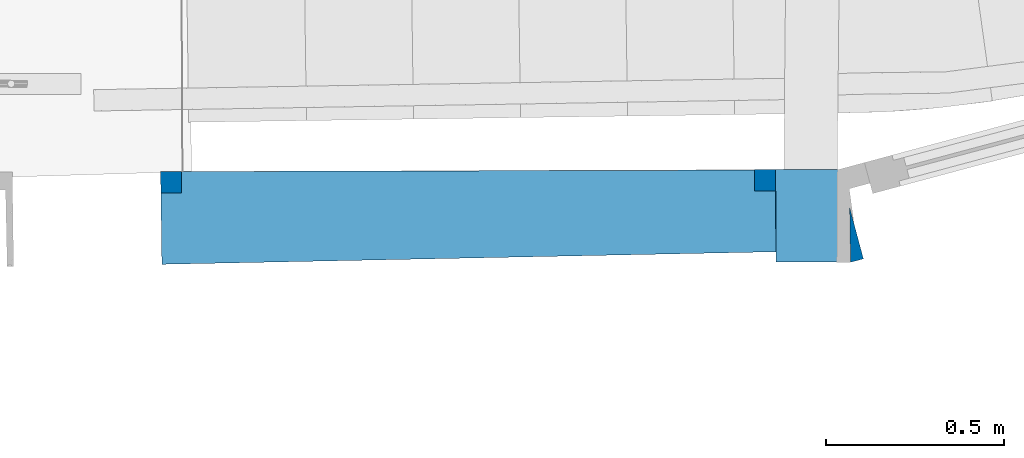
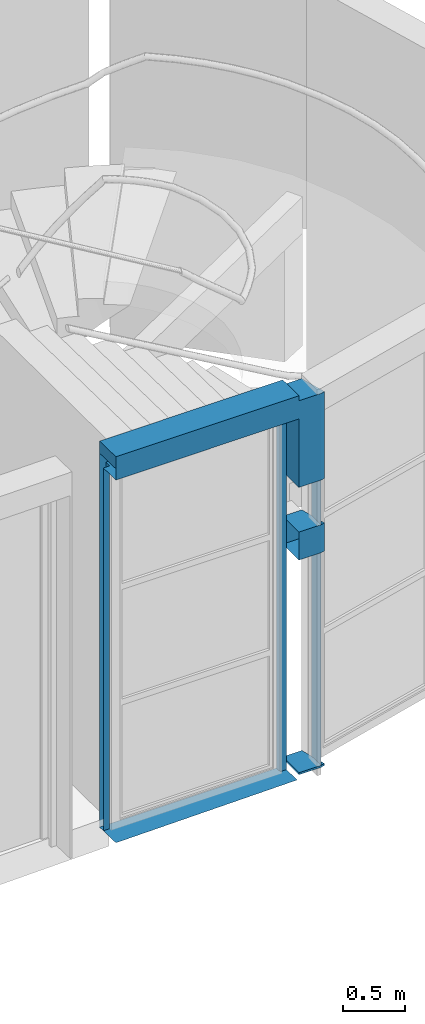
# One storey, part 40 of 66: 1 wall, 1 opening.
"""IFC2X3 building model written with IfcOpenShell, lengths in centimetres."""

import ifcopenshell
import ifcopenshell.guid

model = None  # the IFC model being written
_history = None  # IfcOwnerHistory: only IFC2X3 demands one
_inside = {}  # id of a spatial element -> (the spatial element, [elements in it])
_under = {}  # id of a project, library or spatial element -> (it, [spatial elements below it])
_declared = {}  # id of a project -> (the project, [libraries it declares])
_typed = {}  # id of a type object -> (the type object, [elements of that type])
_made_of = {}  # id of a material, layer set ... -> (it, [elements and type objects made of it])


def new_model(schema):
    """Start an empty IFC model of exactly this schema.

    Asked for "IFC4X3", IfcOpenShell would pick the latest addendum, in which some entities
    have other attributes; the version numbers below select the first issue.
    IFC2X3 requires an IfcOwnerHistory on every rooted entity: one is made here for all.
    """
    global model, _history
    if schema == "IFC4X3":
        model = ifcopenshell.file(schema_version=(4, 3, 0, 0))
    else:
        model = ifcopenshell.file(schema=schema)
    _inside.clear()
    _under.clear()
    _declared.clear()
    _typed.clear()
    _made_of.clear()
    _history = None
    if model.schema == "IFC2X3":
        org = make("IfcOrganization", Name="unknown")
        user = make(
            "IfcPersonAndOrganization",
            ThePerson=make("IfcPerson", FamilyName="unknown"),
            TheOrganization=org,
        )
        app = make(
            "IfcApplication",
            ApplicationDeveloper=org,
            Version="unknown",
            ApplicationFullName="unknown",
            ApplicationIdentifier="unknown",
        )
        _history = make(
            "IfcOwnerHistory",
            OwningUser=user,
            OwningApplication=app,
            ChangeAction="ADDED",
            CreationDate=0,
        )
    return model


def make(cls, **values):
    """One entity of the class cls with the attributes given. An attribute that is None is left unset."""
    return model.create_entity(
        cls, **{name: value for name, value in values.items() if value is not None}
    )


def entity(cls, *values):
    """Any entity or typed value of the class cls, its attributes in the order of the schema. None: left unset."""
    e = model.create_entity(cls)
    for i, value in enumerate(values):
        if value is not None:
            e[i] = value
    return e


def rooted(cls, **values):
    """An entity with a GlobalId (a new one), such as an element, a storey or a relation."""
    return make(cls, GlobalId=ifcopenshell.guid.new(), OwnerHistory=_history, **values)


def si_unit(unit_type, name, prefix=None):
    """IfcSIUnit, for example si_unit("LENGTHUNIT", "METRE", prefix="MILLI")."""
    return make("IfcSIUnit", UnitType=unit_type, Prefix=prefix, Name=name)


def converted_unit(unit_type, name, factor, base, dimensions=None, offset=None):
    """IfcConversionBasedUnit, such as the inch: factor (a typed value) times the base unit."""
    return make(
        "IfcConversionBasedUnit"
        if offset is None
        else "IfcConversionBasedUnitWithOffset",
        ConversionOffset=offset,
        Dimensions=None
        if dimensions is None
        else entity("IfcDimensionalExponents", *dimensions),
        UnitType=unit_type,
        Name=name,
        ConversionFactor=make(
            "IfcMeasureWithUnit", ValueComponent=factor, UnitComponent=base
        ),
    )


def assignment(units):
    """IfcUnitAssignment: the units of a project."""
    return None if units is None else make("IfcUnitAssignment", Units=units)


def point(xyz):
    """IfcCartesianPoint."""
    return None if xyz is None else make("IfcCartesianPoint", Coordinates=xyz)


def direction(xyz):
    """IfcDirection."""
    return None if xyz is None else make("IfcDirection", DirectionRatios=xyz)


def frame(location, z_axis=None, x_axis=None):
    """IfcAxis2Placement3D, a coordinate frame: its origin and axes. An axis left out is left unset."""
    return make(
        "IfcAxis2Placement3D",
        Location=point(location),
        Axis=direction(z_axis),
        RefDirection=direction(x_axis),
    )


def origin():
    """The frame at (0, 0, 0) with its axes left unset."""
    return frame((0.0, 0.0, 0.0))


def origin_with_axes():
    """The frame at (0, 0, 0) with the z axis (0, 0, 1) and the x axis (1, 0, 0) written out."""
    return frame((0.0, 0.0, 0.0), z_axis=(0.0, 0.0, 1.0), x_axis=(1.0, 0.0, 0.0))


def place(relative_to, where):
    """IfcLocalPlacement: puts the frame where relative to a parent placement (None: the world)."""
    return make(
        "IfcLocalPlacement", PlacementRelTo=relative_to, RelativePlacement=where
    )


def context(
    kind, dimensions, precision=None, world=None, true_north=None, identifier=None
):
    """IfcGeometricRepresentationContext, for example the 3D "Model" context."""
    return make(
        "IfcGeometricRepresentationContext",
        ContextIdentifier=identifier,
        ContextType=kind,
        CoordinateSpaceDimension=dimensions,
        Precision=precision,
        WorldCoordinateSystem=world,
        TrueNorth=true_north,
    )


def subcontext(parent, identifier, kind, view, scale=None):
    """IfcGeometricRepresentationSubContext, for example "Body" below "Model"."""
    return make(
        "IfcGeometricRepresentationSubContext",
        ContextIdentifier=identifier,
        ContextType=kind,
        ParentContext=parent,
        TargetScale=scale,
        TargetView=view,
    )


def project(units=None, contexts=None):
    """IfcProject with its units and contexts."""
    return rooted(
        "IfcProject",
        Name="project",
        RepresentationContexts=contexts,
        UnitsInContext=assignment(units),
    )


def spatial(cls, under=None, at=None, **own):
    """A site, building, storey or space (cls), placed at a placement, below another one or the project."""
    s = rooted(cls, ObjectPlacement=at, **own)
    if under is not None:
        _under.setdefault(under.id(), (under, []))[1].append(s)
    return s


def faces_of(points, faces, orient=None, outer=None):
    """IfcFace entities. A face is a list of loops; a loop is a list of indices into points, from 0.

    orient and outer hold one flag for each loop. By default every Orientation is true, the
    first loop of a face is its IfcFaceOuterBound and the others are IfcFaceBound.
    """
    made = []
    for i, loops in enumerate(faces):
        bounds = []
        for j, loop in enumerate(loops):
            is_outer = j == 0 if outer is None else outer[i][j]
            bounds.append(
                make(
                    "IfcFaceOuterBound" if is_outer else "IfcFaceBound",
                    Bound=make("IfcPolyLoop", Polygon=[points[k] for k in loop]),
                    Orientation=True if orient is None else orient[i][j],
                )
            )
        made.append(make("IfcFace", Bounds=bounds))
    return made


def faceted_brep(points, faces, orient=None, outer=None, voids=None):
    """IfcFacetedBrep: a solid bounded by flat faces; with voids (closed shells), ...WithVoids."""
    shared = [point(p) for p in points]
    hull = make("IfcClosedShell", CfsFaces=faces_of(shared, faces, orient, outer))
    if voids is None:
        return make("IfcFacetedBrep", Outer=hull)
    return make(
        "IfcFacetedBrepWithVoids",
        Outer=hull,
        Voids=[
            make(cls, CfsFaces=faces_of(shared, fs, o, b)) for cls, fs, o, b in voids
        ],
    )


def shape(context_of_items, identifier, shape_type, items):
    """IfcShapeRepresentation: the items that make up one representation, for example the "Body"."""
    return make(
        "IfcShapeRepresentation",
        ContextOfItems=context_of_items,
        RepresentationIdentifier=identifier,
        RepresentationType=shape_type,
        Items=items,
    )


def material(Name=None, Category=None):
    """IfcMaterial."""
    return make("IfcMaterial", Name=Name, Category=Category)


def layer(
    of_material, thickness, ventilated=None, Name=None, Category=None, Priority=None
):
    """IfcMaterialLayer: one layer of a wall or slab, of a material (None: an air gap)."""
    return make(
        "IfcMaterialLayer",
        Material=of_material,
        LayerThickness=thickness,
        IsVentilated=ventilated,
        Name=Name,
        Category=Category,
        Priority=Priority,
    )


def layer_set(layers, Name=None):
    """IfcMaterialLayerSet."""
    return make("IfcMaterialLayerSet", MaterialLayers=layers, LayerSetName=Name)


def layer_usage(for_layer_set, set_direction, sense, offset, extent=None):
    """IfcMaterialLayerSetUsage: how a layer set lies in its element."""
    return make(
        "IfcMaterialLayerSetUsage",
        ForLayerSet=for_layer_set,
        LayerSetDirection=set_direction,
        DirectionSense=sense,
        OffsetFromReferenceLine=offset,
        ReferenceExtent=extent,
    )


def made_of(thing, what):
    """Note that an element or type object is made of a material, layer set ...; save() writes the relation."""
    if what is not None:
        _made_of.setdefault(what.id(), (what, []))[1].append(thing)
    return thing


def type_object(cls, material=None, **own):
    """A type object (cls), such as IfcWallType, which elements share."""
    return made_of(rooted(cls, **own), material)


def element(
    cls,
    number,
    at=None,
    inside=None,
    cuts=None,
    type_object=None,
    material=None,
    context=None,
    identifier="Body",
    shape_type=None,
    held_by="IfcProductDefinitionShape",
    body=None,
    shapes=None,
    **own,
):
    """One element of the class cls, such as IfcWall. Its Tag is "e" and its number.

    at: its placement. inside: the storey or other place that contains it. cuts: it is an
    opening in that element (IfcRelVoidsElement). A single representation is given by context,
    identifier, shape_type and body (its items); several are given by shapes. held_by: the class
    of the entity that holds the representations. save() writes the other relations.
    """
    e = rooted(cls, Tag="e%d" % number, ObjectPlacement=at, **own)
    if body is not None:
        shapes = [shape(context, identifier, shape_type, body)]
    if shapes is not None:
        e.Representation = make(held_by, Representations=shapes)
    if inside is not None:
        _inside.setdefault(inside.id(), (inside, []))[1].append(e)
    if cuts is not None:
        rooted(
            "IfcRelVoidsElement", RelatingBuildingElement=cuts, RelatedOpeningElement=e
        )
    if type_object is not None:
        _typed.setdefault(type_object.id(), (type_object, []))[1].append(e)
    return made_of(e, material)


def aggregate(whole, parts):
    """IfcRelAggregates: a whole, such as a stair, and the parts it consists of."""
    return rooted("IfcRelAggregates", RelatingObject=whole, RelatedObjects=parts)


def save(model, path):
    """Write the relations noted so far, then the file.

    IfcRelAggregates (storeys below a building ...), IfcRelContainedInSpatialStructure (elements
    in a storey), IfcRelDefinesByType, IfcRelAssociatesMaterial and IfcRelDeclares: one each for
    every whole, place, type object, material and project.
    """
    for whole, parts in _under.values():
        aggregate(whole, parts)
    for where, things in _inside.values():
        rooted(
            "IfcRelContainedInSpatialStructure",
            RelatedElements=things,
            RelatingStructure=where,
        )
    for kind, things in _typed.values():
        rooted("IfcRelDefinesByType", RelatedObjects=things, RelatingType=kind)
    for what, things in _made_of.values():
        rooted("IfcRelAssociatesMaterial", RelatedObjects=things, RelatingMaterial=what)
    for by, libraries in _declared.values():
        rooted("IfcRelDeclares", RelatingContext=by, RelatedDefinitions=libraries)
    model.write(path)


model = new_model("IFC2X3")

# Units and contexts
model_context = context("Model", 3, precision=0.0001, world=origin(), true_north=direction((0.225632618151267, 0.974212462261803, 0.0)))
body_context = subcontext(model_context, "Body", "Model", "MODEL_VIEW")
footprint_context = subcontext(model_context, "FootPrint", "Model", "MODEL_VIEW")
profile_context = subcontext(model_context, "Profile", "Model", "MODEL_VIEW")
ifc_project = project(units=[si_unit("LENGTHUNIT", "METRE", prefix="CENTI"), si_unit("AREAUNIT", "SQUARE_METRE", prefix="CENTI"), si_unit("VOLUMEUNIT", "CUBIC_METRE", prefix="CENTI"), converted_unit("PLANEANGLEUNIT", "DEGREE", entity("IfcRatioMeasure", 0.0174532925), si_unit("PLANEANGLEUNIT", "RADIAN"), dimensions=[0, 0, 0, 0, 0, 0, 0])], contexts=[model_context])

# Site, building, storey
site_placement = place(None, origin_with_axes())
site = spatial("IfcSite", under=ifc_project, at=site_placement, Name="Default Site", CompositionType="ELEMENT")
building_placement = place(site_placement, origin_with_axes())
building = spatial("IfcBuilding", under=site, at=building_placement, Name="Default Building", CompositionType="ELEMENT")
storey_placement = place(building_placement, frame((0.0, 0.0, 477.795358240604), z_axis=(0.0, 0.0, 1.0), x_axis=(1.0, 0.0, 0.0)))
storey = spatial("IfcBuildingStorey", under=building, at=storey_placement, Name="Niveau 1", CompositionType="ELEMENT", Elevation=477.795358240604)

# Wall, opening
ifc_material = material(Name="<aucun>")
ifc_layer = layer(ifc_material, 26.0)
ifc_layer_set = layer_set([ifc_layer], Name="default")
ifc_layer_usage = layer_usage(ifc_layer_set, "AXIS2", "POSITIVE", -13.0)
wall_type = type_object("IfcWallType", Name="default 260", PredefinedType="NOTDEFINED", material=ifc_layer_set)
wall_placement = place(storey_placement, frame((1115.98093653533, -885.679560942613, -6.9999999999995), z_axis=(0.0, 0.0, 1.0), x_axis=(0.999994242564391, 0.0033933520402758, 0.0)))
wall = element("IfcWall", 1, at=wall_placement, inside=storey, type_object=wall_type, material=ifc_layer_usage, Name="Enveloppe 531874", context=body_context, shape_type="Brep", body=[
    faceted_brep([(172.883199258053, 12.9999722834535, 237.999998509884), (172.883199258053, 12.9999722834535, 220.000015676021), (172.883199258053, 12.9999722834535, 9.00000232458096), (172.883199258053, 12.9999722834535, 7.01283115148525), (172.883199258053, 12.9999722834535, 1.99998515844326), (172.883199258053, 12.9999722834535, -1.29342081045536e-05), (166.943681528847, 12.9999722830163, -1.29342081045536e-05), (166.943681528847, 12.9999722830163, 237.999998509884), (6.42926175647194, 13.0002338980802, 237.999998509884), (6.42926175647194, 13.0002338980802, -1.29342081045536e-05), (0.523331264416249, 13.0054612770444, -1.29342081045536e-05), (0.523331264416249, 13.0054612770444, 237.999998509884), (190.780240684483, 12.9999903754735, 7.01283115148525), (173.036932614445, 12.9999903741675, 7.01283115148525), (173.036932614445, 12.9999903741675, 9.00000232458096), (190.780240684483, 12.9999903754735, 9.00000232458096), (173.036932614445, 13.0000228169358, 7.01283115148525), (173.011564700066, 13.0000228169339, 7.01283115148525), (172.883199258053, 13.0000228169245, 7.01283115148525), (172.883199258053, 13.0000228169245, 9.00000232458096), (173.011564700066, 13.0000228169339, 9.00000232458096), (173.036932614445, 13.0000228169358, 9.00000232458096), (175.180423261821, 12.999997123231, 237.999998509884), (190.181711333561, 12.9999971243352, 237.999998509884), (190.181711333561, 12.9999971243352, 220.000015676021), (175.180423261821, 12.999997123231, 220.000015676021), (173.036932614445, 12.9999971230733, 220.000015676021), (173.036932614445, 12.9999971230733, 237.999998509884), (173.036932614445, 13.0000228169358, 220.000015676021), (173.011564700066, 13.0000228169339, 220.000015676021), (172.883199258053, 13.0000228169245, 220.000015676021), (172.883199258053, 13.0000228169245, 237.999998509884), (173.036932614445, 13.0000228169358, 237.999998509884), (6.42926175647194, 13.0002338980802, 245.11502879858), (0.523331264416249, 13.0054612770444, 245.11502879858), (175.180423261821, 12.999997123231, 245.11502879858), (190.181711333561, 12.9999971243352, 245.11502879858), (172.883199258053, 12.999997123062, 237.999998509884), (166.943681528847, 12.9999971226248, 237.999998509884), (166.943681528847, 12.9999971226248, 245.11502879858), (172.883199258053, 12.999997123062, 245.11502879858), (173.036932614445, 12.9999971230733, 245.11502879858), (172.883199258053, 12.9999722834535, 293.999992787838), (172.883199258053, 12.9999722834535, 291.999994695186), (172.883199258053, 12.9999722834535, 247.80000346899), (172.883199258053, 12.9999722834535, 245.11502879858), (166.943681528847, 12.9999722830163, 245.11502879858), (166.943681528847, 12.9999722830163, 293.999992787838), (6.42926175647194, 13.0002338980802, 293.999992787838), (0.523331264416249, 13.0054612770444, 293.999992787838), (175.180423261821, 12.999997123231, 247.80000346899), (190.181711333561, 12.9999971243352, 247.80000346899), (173.036932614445, 12.9999971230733, 247.80000346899), (173.036932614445, 13.0000228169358, 245.11502879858), (172.883199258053, 13.0000228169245, 245.11502879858), (172.883199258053, 13.0000228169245, 247.80000346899), (173.011564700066, 13.0000228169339, 247.80000346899), (173.036932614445, 13.0000228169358, 247.80000346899), (190.780240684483, 12.9999903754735, 291.999994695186), (173.036932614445, 12.9999903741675, 291.999994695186), (173.036932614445, 12.9999903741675, 293.999992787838), (190.780240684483, 12.9999903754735, 293.999992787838), (173.036932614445, 13.0000228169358, 291.999994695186), (173.011564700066, 13.0000228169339, 291.999994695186), (172.883199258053, 13.0000228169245, 291.999994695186), (172.883199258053, 13.0000228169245, 293.999992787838), (173.036932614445, 13.0000228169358, 293.999992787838), (6.69943840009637, 12.9999846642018, 371.115004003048), (6.69943840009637, 12.9999846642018, 360.000025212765), (6.42926174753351, 13.0002237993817, 360.000025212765), (6.42926174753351, 13.0002237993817, 293.999992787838), (0.523331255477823, 13.0054511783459, 293.999992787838), (0.523331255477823, 13.0054511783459, 371.115004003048), (190.780240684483, 12.9999903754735, 371.115004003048), (172.883199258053, 12.9999903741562, 293.999992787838), (166.943681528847, 12.9999903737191, 293.999992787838), (166.943681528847, 12.9999903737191, 360.000025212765), (6.69943840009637, 12.9999903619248, 360.000025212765), (6.69943840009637, 12.9999903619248, 371.115004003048), (8.3038139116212, 12.9999903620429, 371.115004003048), (172.883199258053, 12.9999903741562, 371.115004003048), (173.036932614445, 12.9999903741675, 371.115004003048), (172.883199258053, 12.9999722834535, 371.115004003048), (8.30381391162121, 12.9999722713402, 371.115004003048), (8.30381391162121, 12.9999722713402, 383.114992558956), (167.943710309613, 12.99997228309, 383.114992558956), (172.883199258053, 12.9999722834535, 383.114992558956), (172.883199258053, 12.9999722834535, 381.11504215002), (172.883199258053, 12.9999722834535, 378.11497348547), (8.30381391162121, 12.9999763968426, 371.115004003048), (6.69943840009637, 12.9999763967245, 371.115004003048), (6.69943840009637, 12.9999763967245, 383.114992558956), (8.30381391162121, 12.9999763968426, 383.114992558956), (0.523331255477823, 13.0054511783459, 383.114992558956), (6.69943840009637, 12.9999846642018, 383.114992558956), (173.036932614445, 12.9999903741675, 378.11497348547), (190.780240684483, 12.9999903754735, 378.11497348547), (173.036932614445, 13.0000228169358, 371.115004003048), (172.883199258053, 13.0000228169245, 371.115004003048), (172.883199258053, 13.0000228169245, 378.11497348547), (173.011564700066, 13.0000228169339, 378.11497348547), (173.036932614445, 13.0000228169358, 378.11497348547), (189.940131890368, -13.0000017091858, 9.00000232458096), (189.940131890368, -13.0000017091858, 7.01283115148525), (193.817126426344, -13.0000017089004, 7.01283115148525), (193.817126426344, -13.0000017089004, 9.00000232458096), (172.943650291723, -13.0000239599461, 9.00000232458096), (172.943650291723, -13.0000239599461, 7.01283115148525), (173.000584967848, -13.0000239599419, 7.01283115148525), (189.940131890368, -13.0000239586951, 7.01283115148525), (189.940131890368, -13.0000239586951, 9.00000232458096), (173.000584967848, -13.0000239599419, 9.00000232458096), (189.940131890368, -13.0000017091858, 237.999998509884), (189.940131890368, -13.0000017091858, 220.000015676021), (193.817126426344, -13.0000017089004, 220.000015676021), (193.817126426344, -13.0000017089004, 237.999998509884), (172.943650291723, -13.0000239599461, 237.999998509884), (172.943650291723, -13.0000239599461, 220.000015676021), (173.000584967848, -13.0000239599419, 220.000015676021), (189.940131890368, -13.0000239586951, 220.000015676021), (189.940131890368, -13.0000239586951, 237.999998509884), (172.943650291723, -13.0000239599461, 245.11502879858), (193.817126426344, -13.0000239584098, 237.999998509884), (193.817126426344, -13.0000239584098, 245.11502879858), (189.940131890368, -13.0000239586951, 245.11502879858), (189.940131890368, -13.0000017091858, 247.80000346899), (189.940131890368, -13.0000017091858, 245.11502879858), (193.817126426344, -13.0000017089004, 245.11502879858), (193.817126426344, -13.0000017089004, 247.80000346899), (172.943650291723, -13.0000239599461, 247.80000346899), (189.940131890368, -13.0000239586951, 247.80000346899), (173.000584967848, -13.0000239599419, 247.80000346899), (189.940131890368, -13.0000017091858, 293.999992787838), (189.940131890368, -13.0000017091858, 291.999994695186), (193.817126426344, -13.0000017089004, 291.999994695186), (193.817126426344, -13.0000017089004, 293.999992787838), (172.943650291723, -13.0000239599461, 293.999992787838), (172.943650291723, -13.0000239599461, 291.999994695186), (173.000584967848, -13.0000239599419, 291.999994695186), (189.940131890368, -13.0000239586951, 291.999994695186), (189.940131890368, -13.0000239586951, 293.999992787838), (0.794999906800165, -13.0011329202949, 371.115004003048), (0.794999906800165, -13.0011329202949, 360.000025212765), (0.860044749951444, -13.0000242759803, 360.000025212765), (0.860044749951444, -13.0000242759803, 371.115004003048), (0.860044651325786, -13.0000184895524, 371.115004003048), (0.860044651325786, -13.0000184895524, 360.000025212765), (172.943650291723, -13.0000184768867, 360.000025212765), (172.943650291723, -13.0000184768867, 293.999992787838), (189.940131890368, -13.0000184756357, 293.999992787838), (193.817126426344, -13.0000184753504, 293.999992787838), (193.817126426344, -13.0000184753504, 360.000025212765), (194.160451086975, -13.0000184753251, 360.000025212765), (194.160451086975, -13.0000184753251, 371.115004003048), (189.940131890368, -13.0000184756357, 371.115004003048), (172.883187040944, -13.0000184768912, 371.115004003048), (0.860044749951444, -13.0000242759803, 383.114992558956), (0.794999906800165, -13.0011329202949, 383.114992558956), (172.883187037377, -13.0007974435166, 371.115004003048), (172.883184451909, -13.0007974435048, 378.11497348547), (172.883184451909, -13.0007974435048, 381.11504215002), (172.883184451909, -13.0007974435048, 383.114992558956), (0.860044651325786, -13.0000184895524, 383.114992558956), (189.940131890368, -13.0000017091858, 371.115004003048), (194.160451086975, -13.0000017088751, 371.115004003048), (194.160451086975, -13.0000017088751, 378.11497348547), (189.940131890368, -13.0000017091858, 378.11497348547), (172.883187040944, -13.0000095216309, 371.115004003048), (189.940131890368, -13.0000095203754, 371.115004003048), (189.940131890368, -13.0000095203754, 378.11497348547), (173.000584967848, -13.0000095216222, 378.11497348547), (172.883184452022, -13.0000095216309, 378.11497348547), (194.160451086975, -13.0000176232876, 237.999998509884), (197.428304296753, -12.1357146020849, 237.999998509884), (197.428304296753, -12.1357146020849, 220.000015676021), (194.160451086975, -13.0000176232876, 220.000015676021), (193.818343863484, -13.0905003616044, 220.000015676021), (193.818343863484, -13.0905003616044, 237.999998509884), (194.160451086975, -13.0000176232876, 239.499985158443), (197.428304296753, -12.1357146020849, 239.499985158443), (193.818343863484, -13.0905003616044, 239.499985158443), (194.160451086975, -13.0000176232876, 240.500008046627), (197.428304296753, -12.1357146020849, 240.500008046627), (193.818343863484, -13.0905003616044, 240.500008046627), (194.160451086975, -13.0000176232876, 242.500006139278), (197.428304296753, -12.1357146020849, 242.500006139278), (193.818343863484, -13.0905003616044, 242.500006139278), (194.160451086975, -13.0000176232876, 244.012867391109), (197.428304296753, -12.1357146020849, 244.012867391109), (193.818343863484, -13.0905003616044, 244.012867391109), (194.160451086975, -13.0000176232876, 245.11502879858), (197.428304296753, -12.1357146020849, 245.11502879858), (193.818343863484, -13.0905003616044, 245.11502879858), (194.160451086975, -13.0000176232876, 247.80000346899), (197.428304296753, -12.1357146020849, 247.80000346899), (193.818343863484, -13.0905003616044, 247.80000346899), (194.160451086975, -13.0000176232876, 293.999992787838), (197.428304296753, -12.1357146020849, 293.999992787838), (197.428304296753, -12.1357146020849, 291.999994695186), (194.160451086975, -13.0000176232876, 291.999994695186), (193.818343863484, -13.0905003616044, 291.999994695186), (193.818343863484, -13.0905003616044, 293.999992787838), (194.160451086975, -13.0000176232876, 305.715023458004), (197.428304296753, -12.1357146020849, 305.715023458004), (193.818343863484, -13.0905003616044, 305.715023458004), (194.160451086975, -13.0000176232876, 360.000025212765), (197.428304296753, -12.1357146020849, 360.000025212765), (193.818343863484, -13.0905003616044, 360.000025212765), (194.160451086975, -13.0000176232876, 9.00000232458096), (197.428304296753, -12.1357146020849, 9.00000232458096), (197.428304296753, -12.1357146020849, 7.01283115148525), (194.160451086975, -13.0000176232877, 7.01283115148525), (194.160451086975, -13.0000176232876, 7.01283115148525), (193.818343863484, -13.0905003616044, 7.01283115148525), (193.818343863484, -13.0905003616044, 9.00000232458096), (61.4477752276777, -11.9673573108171, -1.29342081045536e-05), (0.778291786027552, -11.4047115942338, -1.29342081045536e-05), (0.523331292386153, 13.0054928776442, -1.29342081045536e-05), (166.943677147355, 12.8581924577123, -1.29342081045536e-05), (166.943681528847, 13.0000046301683, -1.29342081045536e-05), (172.883122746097, -10.068016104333, -1.29342081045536e-05), (0.794999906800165, -13.0011329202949, -1.29342081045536e-05), (0.84342607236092, -11.4053140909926, -1.29342081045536e-05), (0.860044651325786, -13.0000184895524, -1.29342081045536e-05), (172.641338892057, -12.9985212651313, -1.29342081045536e-05), (172.883184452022, -13.0007724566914, -1.29342081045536e-05), (197.428306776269, -12.1357239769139, 7.01283115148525), (190.17955095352, 12.8411429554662, 7.01283115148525), (190.17955095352, 12.8411429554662, 9.00000232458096), (197.428306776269, -12.1357239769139, 9.00000232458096), (193.609181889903, 2.30431311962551, 9.00000232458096), (193.609181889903, 2.30431311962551, 7.01283115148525), (190.780314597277, 13.0000099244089, 7.01283115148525), (190.780314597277, 13.0000099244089, 9.00000232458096), (172.883187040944, -13.0000095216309, 7.01283115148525), (172.883187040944, -13.0000095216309, 9.00000232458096), (197.428306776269, -12.1357239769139, 220.000015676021), (190.17955095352, 12.8411429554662, 220.000015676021), (190.780240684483, 12.9999903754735, 220.000015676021), (193.609181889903, 2.30431311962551, 237.999998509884), (193.609181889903, 2.30431311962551, 220.000015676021), (190.780314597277, 13.0000099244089, 220.000015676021), (190.780314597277, 13.0000099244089, 237.999998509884), (190.181711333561, 13.0000186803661, 220.000015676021), (172.883187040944, -13.0000095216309, 220.000015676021), (193.609181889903, 2.30431311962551, 245.11502879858), (190.780314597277, 13.0000099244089, 245.11502879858), (190.780240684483, 12.9999903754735, 247.80000346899), (190.17955095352, 12.8411429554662, 247.80000346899), (197.428306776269, -12.1357239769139, 247.80000346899), (193.609181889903, 2.30431311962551, 247.80000346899), (190.780314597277, 13.0000099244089, 247.80000346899), (190.181711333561, 13.0000186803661, 247.80000346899), (172.883187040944, -13.0000095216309, 247.80000346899), (197.428306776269, -12.1357239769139, 291.999994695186), (190.17955095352, 12.8411429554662, 291.999994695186), (193.609181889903, 2.30431311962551, 293.999992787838), (193.609181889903, 2.30431311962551, 291.999994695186), (190.780314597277, 13.0000099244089, 291.999994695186), (190.780314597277, 13.0000099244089, 293.999992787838), (172.883187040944, -13.0000095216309, 291.999994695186), (0.528803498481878, 12.482190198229, 665.115057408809), (0.528803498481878, 12.482190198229, 653.999983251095), (0.531640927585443, 12.2105731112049, 653.999983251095), (0.531640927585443, 12.2105731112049, 665.115057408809), (197.428306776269, -12.1357239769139, 371.115004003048), (197.428306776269, -12.1357239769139, 360.000025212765), (193.609116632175, 2.30429585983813, 360.000025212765), (193.609116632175, 2.30429585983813, 293.999992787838), (190.780249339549, 12.9999926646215, 293.999992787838), (190.780249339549, 12.9999926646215, 371.115004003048), (0.852224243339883, -13.0000873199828, 383.114992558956), (0.852245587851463, 8.00003732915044, 383.114992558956), (5.85219811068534, 8.00004613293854, 383.114992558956), (5.85219189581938, 13.0007615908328, 383.114992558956), (0.523331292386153, 13.0054928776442, 383.114992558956), (172.883187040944, -13.0000095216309, 383.114992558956), (0.523331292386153, 13.0054928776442, 371.115004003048), (0.795007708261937, -13.0011328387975, 371.115004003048), (0.795007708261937, -13.0011328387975, 383.114992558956), (172.883184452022, -13.0007724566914, 378.11497348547), (172.883184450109, 12.9999722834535, 378.11497348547), (172.883184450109, 12.9999722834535, 381.11504215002), (172.883184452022, -13.0007724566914, 381.11504215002), (172.883184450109, 12.9999722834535, 383.114992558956), (172.883184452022, -13.0007724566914, 383.114992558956), (190.17955095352, 12.8411429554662, 378.11497348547), (194.160451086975, -13.0000176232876, 378.11497348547), (197.428306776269, -12.1357239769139, 378.11497348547), (190.780249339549, 12.9999926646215, 378.11497348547), (172.883187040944, -13.0000095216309, 378.11497348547), (6.42930936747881, 6.99996649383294, 360.000025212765), (6.42930936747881, 6.99996649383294, -1.29342081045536e-05), (6.42930936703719, 13.000043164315, -1.29342081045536e-05), (6.42930936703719, 13.000043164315, 360.000025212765), (0.586017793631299, 6.99995841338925, -1.29342081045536e-05), (6.42930936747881, 6.99995841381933, -1.29342081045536e-05), (6.42930936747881, 6.99995841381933, 360.000025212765), (0.586017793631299, 6.99995841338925, 360.000025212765), (166.9437301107, 7.00002332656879, -1.29342081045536e-05), (166.9437301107, 7.00002332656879, 7.01283115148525), (166.9437301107, 7.00002332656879, 9.00000232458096), (166.9437301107, 7.00002332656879, 220.000015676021), (166.9437301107, 7.00002332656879, 247.80000346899), (166.9437301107, 7.00002332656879, 291.999994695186), (166.9437301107, 7.00002332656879, 360.000025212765), (166.943730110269, 12.8581924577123, 360.000025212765), (166.943730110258, 13.0000046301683, 360.000025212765), (166.943730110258, 13.0000046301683, 293.999992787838), (166.943730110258, 13.0000046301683, 245.11502879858), (166.943730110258, 13.0000046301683, 237.999998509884), (166.943730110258, 13.0000046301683, -1.29342081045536e-05), (172.943711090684, 6.9999765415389, 360.000025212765), (172.883152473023, 6.99997654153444, 360.000025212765), (172.883152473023, 6.99997654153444, 291.999994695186), (172.943711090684, 6.9999765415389, 291.999994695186), (172.883152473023, 6.99999130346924, 360.000025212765), (166.9437301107, 6.99999130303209, 360.000025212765), (166.9437301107, 6.99999130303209, 291.999994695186), (172.883152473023, 6.99999130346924, 291.999994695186), (166.9437301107, 6.99999130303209, 247.80000346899), (172.883152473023, 6.99999130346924, 247.80000346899), (166.9437301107, 6.99999130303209, 220.000015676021), (172.883152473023, 6.99999130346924, 220.000015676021), (166.9437301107, 6.99999130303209, 9.00000232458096), (172.883152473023, 6.99999130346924, 9.00000232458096), (172.883152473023, 6.99999130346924, 7.01283115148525), (166.9437301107, 6.99999130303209, 7.01283115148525), (166.9437301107, 6.99999130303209, -1.29342081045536e-05), (172.883152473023, 6.99999130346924, -1.29342081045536e-05), (172.943650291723, -13.0000239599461, 360.000025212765), (172.943650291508, -10.0669818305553, 360.000025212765), (172.943650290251, 6.99997654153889, 360.000025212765), (172.943650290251, 6.99997654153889, 291.999994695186), (172.943684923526, -10.0669818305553, 360.000025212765), (6.4292611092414, 13.000043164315, 360.000025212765), (166.943681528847, 13.0000046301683, 360.000025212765), (166.943677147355, 12.8581924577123, 360.000025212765), (6.69886555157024, 12.9997958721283, 360.000025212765), (0.79500379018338, -12.9999885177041, 360.000025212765), (193.609181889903, 2.30431311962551, 360.000025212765), (193.817137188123, -12.9999968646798, 360.000025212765), (193.817137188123, -12.9999968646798, 293.999992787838), (193.817137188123, -12.9999968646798, 291.999994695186), (193.817137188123, -12.9999968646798, 247.80000346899), (193.817137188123, -12.9999968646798, 245.11502879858), (193.817137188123, -12.9999968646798, 237.999998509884), (193.817137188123, -12.9999968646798, 220.000015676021), (193.817137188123, -12.9999968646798, 9.00000232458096), (193.817137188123, -12.9999968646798, 7.01283115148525), (193.817126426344, -12.9999970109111, 360.000025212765), (167.943710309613, 13.0000444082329, 383.114992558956), (167.943718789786, 7.99999651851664, 383.114992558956), (172.883208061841, 8.00001976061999, 383.114992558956), (0.852224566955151, -12.9999919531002, 383.114992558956), (172.883122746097, -10.068016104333, 383.114992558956), (8.30381650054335, 13.0007393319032, 383.114992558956), (6.69944098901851, 13.0007475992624, 383.114992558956), (190.179557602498, 12.841117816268, 220.000015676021), (190.179557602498, 12.841117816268, 237.999998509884), (190.780240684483, 12.9999903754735, 237.999998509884), (190.179557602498, 12.841117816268, 245.11502879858), (190.780240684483, 12.9999903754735, 245.11502879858), (190.179557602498, 12.841117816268, 247.80000346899), (190.181669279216, 13.0000192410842, 220.000015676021), (190.181669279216, 13.0000192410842, 237.999998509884), (190.17955095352, 12.8411429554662, 237.999998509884), (190.181669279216, 13.0000192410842, 245.11502879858), (190.17955095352, 12.8411429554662, 245.11502879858), (190.181669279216, 13.0000192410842, 247.80000346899), (197.428304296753, -12.1357146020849, 371.115004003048), (194.160451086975, -13.0000176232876, 371.115004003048), (197.428304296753, -12.1357146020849, 378.11497348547)], [[[0, 1, 2, 3, 4, 5, 6, 7]], [[8, 9, 10, 11]], [[12, 13, 14, 15]], [[16, 17, 18, 19, 20, 21]], [[22, 23, 24, 25]], [[25, 26, 27, 22]], [[28, 29, 30, 31, 32]], [[33, 8, 11, 34]], [[35, 36, 23, 22]], [[35, 22, 27, 37, 38, 39, 40, 41]], [[42, 43, 44, 45, 46, 47]], [[48, 33, 34, 49]], [[50, 51, 36, 35]], [[35, 41, 52, 50]], [[53, 54, 55, 56, 57]], [[58, 59, 60, 61]], [[62, 63, 64, 65, 66]], [[67, 68, 69, 70, 71, 72]], [[73, 61, 60, 74, 75, 76, 77, 78, 79, 80, 81]], [[82, 83, 84, 85, 86, 87, 88]], [[89, 90, 91, 92]], [[67, 72, 93, 94]], [[73, 81, 95, 96]], [[97, 98, 99, 100, 101]], [[102, 103, 104, 105]], [[106, 107, 108, 109, 110, 111]], [[112, 113, 114, 115]], [[116, 117, 118, 119, 120]], [[121, 116, 120, 122, 123, 124]], [[125, 126, 127, 128]], [[129, 121, 124, 130, 131]], [[132, 133, 134, 135]], [[136, 137, 138, 139, 140]], [[141, 142, 143, 144]], [[145, 146, 147, 148, 149, 150, 151, 152, 153, 154, 155]], [[141, 144, 156, 157]], [[145, 158, 159, 160, 161, 162]], [[163, 164, 165, 166]], [[167, 168, 169, 170, 171]], [[172, 173, 174, 175]], [[175, 176, 177, 172]], [[178, 179, 173, 172]], [[172, 177, 180, 178]], [[181, 182, 179, 178]], [[178, 180, 183, 181]], [[184, 185, 182, 181]], [[181, 183, 186, 184]], [[187, 188, 185, 184]], [[184, 186, 189, 187]], [[190, 191, 188, 187]], [[187, 189, 192, 190]], [[193, 194, 191, 190]], [[190, 192, 195, 193]], [[196, 197, 198, 199]], [[199, 200, 201, 196]], [[202, 203, 197, 196]], [[196, 201, 204, 202]], [[205, 206, 203, 202]], [[202, 204, 207, 205]], [[208, 209, 210, 211]], [[212, 213, 214, 208]], [[215, 216, 217, 218, 219, 5, 220]], [[221, 216, 222, 223]], [[215, 223, 224, 225, 223, 222]], [[226, 212, 103, 227, 12]], [[15, 228, 102, 208, 229]], [[230, 231, 232, 233]], [[12, 227, 16]], [[21, 228, 15]], [[3, 16, 227, 103, 234]], [[235, 102, 228, 21, 2]], [[236, 175, 113, 237, 238]], [[239, 240, 241, 242]], [[237, 28, 25, 243]], [[1, 28, 237, 113, 244]], [[245, 239, 242, 246]], [[247, 248, 125, 193, 249]], [[250, 245, 246, 251]], [[252, 50, 57, 248]], [[253, 125, 248, 57, 44]], [[254, 199, 133, 255, 58]], [[256, 257, 258, 259]], [[58, 255, 62]], [[43, 62, 255, 133, 260]], [[261, 262, 263, 264]], [[265, 266, 267, 268, 269, 270]], [[271, 272, 273, 274, 275, 157, 162, 276]], [[277, 278, 279, 275]], [[280, 281, 282, 283]], [[283, 282, 284, 285]], [[96, 286, 166, 287, 288]], [[265, 270, 289, 288]], [[101, 286, 96]], [[290, 166, 286, 101, 88]], [[291, 292, 293, 294]], [[295, 296, 297, 298]], [[299, 300, 301, 302, 303, 304, 305, 306, 307, 308, 309, 310, 311]], [[312, 313, 314, 315]], [[316, 317, 318, 319]], [[319, 318, 320, 321]], [[321, 320, 322, 323]], [[323, 322, 324, 325]], [[326, 327, 328, 329]], [[325, 324, 327, 326]], [[330, 331, 332, 333, 137, 136]], [[334, 330, 146]], [[335, 68, 336, 337, 338]], [[337, 305, 316, 312, 334, 146, 339, 298, 291, 335, 338]], [[257, 340, 341, 342, 343]], [[250, 257, 343, 344]], [[240, 250, 344, 345, 346, 347]], [[230, 240, 347, 348]], [[231, 230, 348, 349]], [[350, 340, 266, 205]], [[86, 351, 352, 353]], [[273, 272, 354, 355, 353, 352, 351, 356, 357, 274]], [[162, 276, 355]], [[238, 358, 359, 360]], [[360, 359, 361, 362]], [[362, 361, 363, 247]], [[237, 364, 365, 366]], [[366, 365, 367, 368]], [[368, 367, 369, 248]], [[205, 206, 370, 371]], [[371, 370, 372, 287]]]),
])
opening_placement = place(wall_placement, frame((0.429305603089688, -1.13686837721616e-13, -5.32907051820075e-13), z_axis=(0.0, 0.0, 1.0), x_axis=(-1.0, 1.27285335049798e-15, 0.0)))
cartesian_point_1 = entity("IfcCartesianPoint", [0.0, 0.0, 360.0])
cartesian_point_2 = entity("IfcCartesianPoint", [-172.514389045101, -13.0000000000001])
element("IfcOpeningElement", 2, at=opening_placement, cuts=wall, Name="4294966537_11", ObjectType="Opening", shapes=[
    shape(body_context, "Body", "Brep", [faceted_brep([(-6.00001630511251, -33.0000436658, 360.000025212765), (-166.514436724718, -33.0000436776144, 360.000025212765), (-166.514436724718, -33.0000436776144, -1.29342075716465e-05), (-6.00001630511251, -33.0000436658, -1.29342075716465e-05), (3.4466342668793e-06, 32.9999880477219, -1.29342075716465e-05), (-172.514379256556, 32.9999880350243, -1.29342075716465e-05), (-172.514379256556, 32.9999880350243, 360.000025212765), (3.4466342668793e-06, 32.9999880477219, 360.000025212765), (-6.0000163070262, -6.99996649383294, -1.29342075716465e-05), (-6.0000163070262, -6.99996649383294, 360.000025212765), (-6.00000376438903, -6.99996649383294, 360.000025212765), (-6.00000376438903, -6.99996649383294, -1.29342075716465e-05), (-2.27844047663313e-05, -6.99996649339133, -1.29342075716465e-05), (-2.27844047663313e-05, -6.99996649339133, 360.000025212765), (-2.27844047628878e-05, -7.00001327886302, 360.000025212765), (-2.27844047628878e-05, -7.00001327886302, -1.29342075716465e-05), (-2.27873488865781e-05, 32.9999880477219, -1.29342075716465e-05), (-2.27873488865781e-05, 32.9999880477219, 360.000025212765), (-166.514436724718, -33.0000051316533, -1.29342075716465e-05), (-166.51442450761, -7.00002332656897, -1.29342075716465e-05), (-172.514405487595, -6.99997654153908, -1.29342075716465e-05), (-172.514379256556, 33.0000247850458, -1.29342075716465e-05), (-166.514436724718, -33.0000051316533, 360.000025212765), (-166.514436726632, -7.00002332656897, 360.000025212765), (-166.514436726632, -7.00002332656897, -1.29342075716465e-05), (-166.51442450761, -7.00002332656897, 360.000025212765), (-172.514405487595, -7.00002332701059, 360.000025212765), (-172.514405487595, -7.00002332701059, -1.29342075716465e-05), (-172.514405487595, -6.99997654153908, 360.000025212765), (-172.514405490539, 33.0000247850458, 360.000025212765), (-172.514405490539, 33.0000247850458, -1.29342075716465e-05), (-172.514379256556, 33.0000247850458, 360.000025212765)], [[[0, 1, 2, 3]], [[4, 5, 6, 7]], [[0, 3, 8, 9]], [[10, 11, 12, 13]], [[14, 15, 16, 17]], [[3, 18, 19, 20, 21, 4, 15, 11]], [[18, 22, 23, 24]], [[19, 25, 26, 27]], [[20, 28, 29, 30]], [[10, 14, 7, 31, 28, 25, 22, 0]]])]),
    shape(profile_context, "Profile", "GeometricCurveSet", [entity("IfcGeometricCurveSet", [entity("IfcPolyline", [cartesian_point_1, entity("IfcCartesianPoint", [0.0, 0.0, -8.88178419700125e-14]), entity("IfcCartesianPoint", [-172.514389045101, 0.0, -8.88178419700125e-14]), entity("IfcCartesianPoint", [-172.514389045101, 0.0, 360.0]), cartesian_point_1])])]),
    shape(footprint_context, "FootPrint", "GeometricCurveSet", [entity("IfcGeometricCurveSet", [entity("IfcPolyline", [cartesian_point_2, entity("IfcCartesianPoint", [0.0, -12.9999999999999]), entity("IfcCartesianPoint", [0.0, 13.0000000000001]), entity("IfcCartesianPoint", [-172.514389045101, 13.0000000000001]), cartesian_point_2])])]),
])

save(model, "model.ifc")
